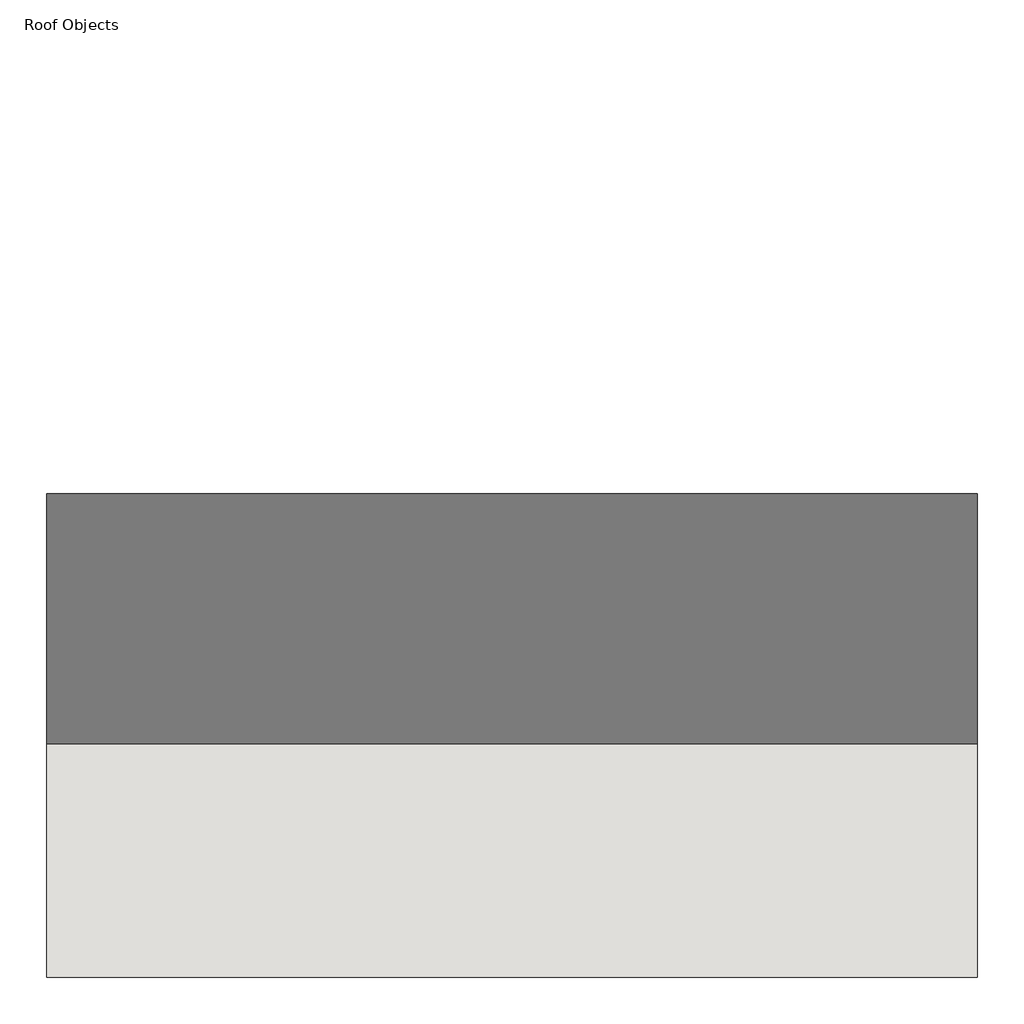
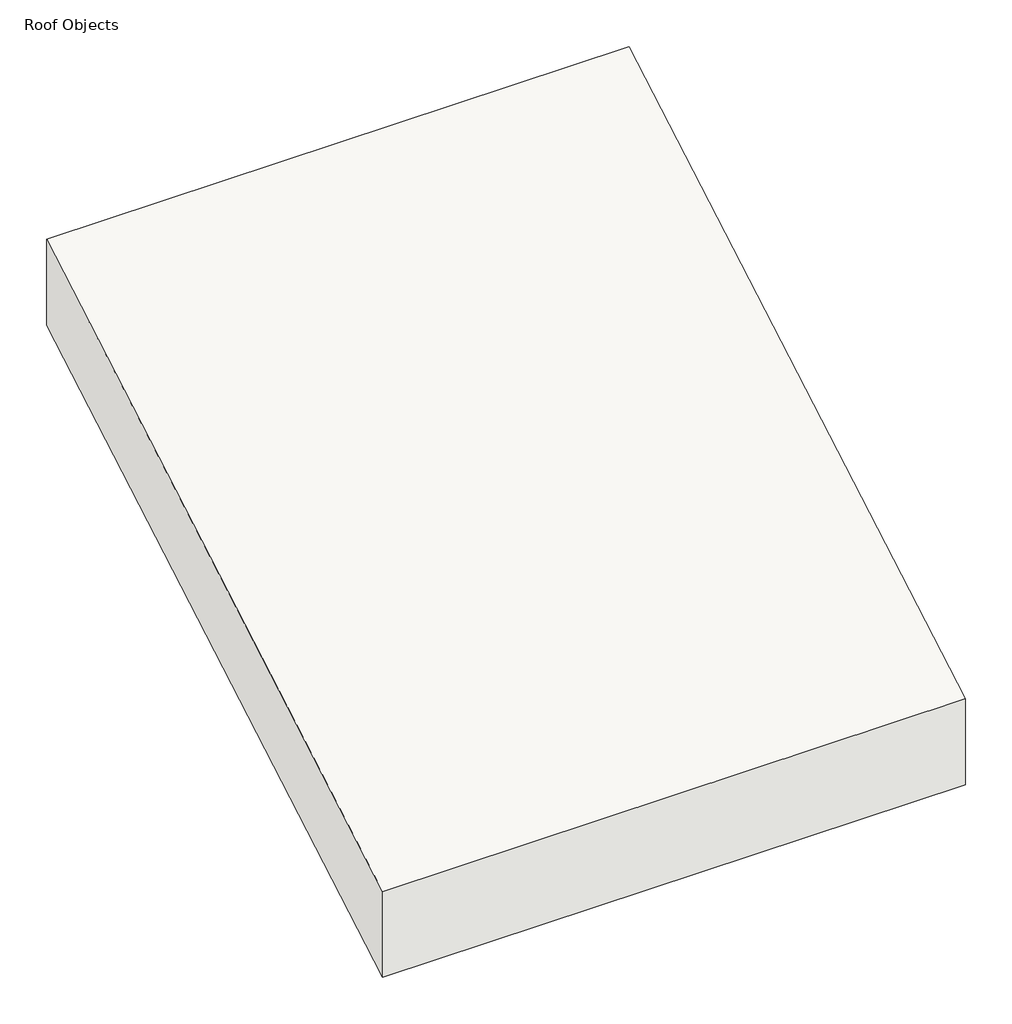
# One storey: 1 roof.
"""IFC4 building model written with IfcOpenShell, lengths in millimetres."""

import ifcopenshell
import ifcopenshell.guid

model = None  # the IFC model being written
_history = None  # IfcOwnerHistory: only IFC2X3 demands one
_inside = {}  # id of a spatial element -> (the spatial element, [elements in it])
_under = {}  # id of a project, library or spatial element -> (it, [spatial elements below it])
_declared = {}  # id of a project -> (the project, [libraries it declares])
_typed = {}  # id of a type object -> (the type object, [elements of that type])
_made_of = {}  # id of a material, layer set ... -> (it, [elements and type objects made of it])


def new_model(schema):
    """Start an empty IFC model of exactly this schema.

    Asked for "IFC4X3", IfcOpenShell would pick the latest addendum, in which some entities
    have other attributes; the version numbers below select the first issue.
    IFC2X3 requires an IfcOwnerHistory on every rooted entity: one is made here for all.
    """
    global model, _history
    if schema == "IFC4X3":
        model = ifcopenshell.file(schema_version=(4, 3, 0, 0))
    else:
        model = ifcopenshell.file(schema=schema)
    _inside.clear()
    _under.clear()
    _declared.clear()
    _typed.clear()
    _made_of.clear()
    _history = None
    if model.schema == "IFC2X3":
        org = make("IfcOrganization", Name="unknown")
        user = make(
            "IfcPersonAndOrganization",
            ThePerson=make("IfcPerson", FamilyName="unknown"),
            TheOrganization=org,
        )
        app = make(
            "IfcApplication",
            ApplicationDeveloper=org,
            Version="unknown",
            ApplicationFullName="unknown",
            ApplicationIdentifier="unknown",
        )
        _history = make(
            "IfcOwnerHistory",
            OwningUser=user,
            OwningApplication=app,
            ChangeAction="ADDED",
            CreationDate=0,
        )
    return model


def make(cls, **values):
    """One entity of the class cls with the attributes given. An attribute that is None is left unset."""
    return model.create_entity(
        cls, **{name: value for name, value in values.items() if value is not None}
    )


def rooted(cls, **values):
    """An entity with a GlobalId (a new one), such as an element, a storey or a relation."""
    return make(cls, GlobalId=ifcopenshell.guid.new(), OwnerHistory=_history, **values)


def si_unit(unit_type, name, prefix=None):
    """IfcSIUnit, for example si_unit("LENGTHUNIT", "METRE", prefix="MILLI")."""
    return make("IfcSIUnit", UnitType=unit_type, Prefix=prefix, Name=name)


def assignment(units):
    """IfcUnitAssignment: the units of a project."""
    return None if units is None else make("IfcUnitAssignment", Units=units)


def point(xyz):
    """IfcCartesianPoint."""
    return None if xyz is None else make("IfcCartesianPoint", Coordinates=xyz)


def direction(xyz):
    """IfcDirection."""
    return None if xyz is None else make("IfcDirection", DirectionRatios=xyz)


def frame(location, z_axis=None, x_axis=None):
    """IfcAxis2Placement3D, a coordinate frame: its origin and axes. An axis left out is left unset."""
    return make(
        "IfcAxis2Placement3D",
        Location=point(location),
        Axis=direction(z_axis),
        RefDirection=direction(x_axis),
    )


def origin():
    """The frame at (0, 0, 0) with its axes left unset."""
    return frame((0.0, 0.0, 0.0))


def place(relative_to, where):
    """IfcLocalPlacement: puts the frame where relative to a parent placement (None: the world)."""
    return make(
        "IfcLocalPlacement", PlacementRelTo=relative_to, RelativePlacement=where
    )


def context(
    kind, dimensions, precision=None, world=None, true_north=None, identifier=None
):
    """IfcGeometricRepresentationContext, for example the 3D "Model" context."""
    return make(
        "IfcGeometricRepresentationContext",
        ContextIdentifier=identifier,
        ContextType=kind,
        CoordinateSpaceDimension=dimensions,
        Precision=precision,
        WorldCoordinateSystem=world,
        TrueNorth=true_north,
    )


def project(units=None, contexts=None):
    """IfcProject with its units and contexts."""
    return rooted(
        "IfcProject",
        Name="project",
        RepresentationContexts=contexts,
        UnitsInContext=assignment(units),
    )


def spatial(cls, under=None, at=None, **own):
    """A site, building, storey or space (cls), placed at a placement, below another one or the project."""
    s = rooted(cls, ObjectPlacement=at, **own)
    if under is not None:
        _under.setdefault(under.id(), (under, []))[1].append(s)
    return s


def polyline(points):
    """IfcPolyline through the points."""
    return make("IfcPolyline", Points=[point(p) for p in points])


def outline(outer, holes=None, kind="AREA"):
    """IfcArbitraryClosedProfileDef: a profile drawn as a closed curve; with holes, ...WithVoids."""
    if holes is None:
        return make("IfcArbitraryClosedProfileDef", ProfileType=kind, OuterCurve=outer)
    return make(
        "IfcArbitraryProfileDefWithVoids",
        ProfileType=kind,
        OuterCurve=outer,
        InnerCurves=holes,
    )


def extrude(swept, where, along, depth):
    """IfcExtrudedAreaSolid: the profile swept, set in the frame where, extruded along a direction by depth."""
    return make(
        "IfcExtrudedAreaSolid",
        SweptArea=swept,
        Position=where,
        ExtrudedDirection=direction(along),
        Depth=depth,
    )


def shape(context_of_items, identifier, shape_type, items):
    """IfcShapeRepresentation: the items that make up one representation, for example the "Body"."""
    return make(
        "IfcShapeRepresentation",
        ContextOfItems=context_of_items,
        RepresentationIdentifier=identifier,
        RepresentationType=shape_type,
        Items=items,
    )


def made_of(thing, what):
    """Note that an element or type object is made of a material, layer set ...; save() writes the relation."""
    if what is not None:
        _made_of.setdefault(what.id(), (what, []))[1].append(thing)
    return thing


def element(
    cls,
    number,
    at=None,
    inside=None,
    cuts=None,
    type_object=None,
    material=None,
    context=None,
    identifier="Body",
    shape_type=None,
    held_by="IfcProductDefinitionShape",
    body=None,
    shapes=None,
    **own,
):
    """One element of the class cls, such as IfcWall. Its Tag is "e" and its number.

    at: its placement. inside: the storey or other place that contains it. cuts: it is an
    opening in that element (IfcRelVoidsElement). A single representation is given by context,
    identifier, shape_type and body (its items); several are given by shapes. held_by: the class
    of the entity that holds the representations. save() writes the other relations.
    """
    e = rooted(cls, Tag="e%d" % number, ObjectPlacement=at, **own)
    if body is not None:
        shapes = [shape(context, identifier, shape_type, body)]
    if shapes is not None:
        e.Representation = make(held_by, Representations=shapes)
    if inside is not None:
        _inside.setdefault(inside.id(), (inside, []))[1].append(e)
    if cuts is not None:
        rooted(
            "IfcRelVoidsElement", RelatingBuildingElement=cuts, RelatedOpeningElement=e
        )
    if type_object is not None:
        _typed.setdefault(type_object.id(), (type_object, []))[1].append(e)
    return made_of(e, material)


def aggregate(whole, parts):
    """IfcRelAggregates: a whole, such as a stair, and the parts it consists of."""
    return rooted("IfcRelAggregates", RelatingObject=whole, RelatedObjects=parts)


def save(model, path):
    """Write the relations noted so far, then the file.

    IfcRelAggregates (storeys below a building ...), IfcRelContainedInSpatialStructure (elements
    in a storey), IfcRelDefinesByType, IfcRelAssociatesMaterial and IfcRelDeclares: one each for
    every whole, place, type object, material and project.
    """
    for whole, parts in _under.values():
        aggregate(whole, parts)
    for where, things in _inside.values():
        rooted(
            "IfcRelContainedInSpatialStructure",
            RelatedElements=things,
            RelatingStructure=where,
        )
    for kind, things in _typed.values():
        rooted("IfcRelDefinesByType", RelatedObjects=things, RelatingType=kind)
    for what, things in _made_of.values():
        rooted("IfcRelAssociatesMaterial", RelatedObjects=things, RelatingMaterial=what)
    for by, libraries in _declared.values():
        rooted("IfcRelDeclares", RelatingContext=by, RelatedDefinitions=libraries)
    model.write(path)


model = new_model("IFC4")

# Units and contexts
model_context = context("Model", 3, world=origin())
ifc_project = project(units=[si_unit("LENGTHUNIT", "METRE", prefix="MILLI")], contexts=[model_context])

# Site, building, storey
site = spatial("IfcSite", under=ifc_project)
building = spatial("IfcBuilding", under=site)
storey = spatial("IfcBuildingStorey", under=building, Name="Roof Objects", Elevation=4000.0)

# Roof
placement = place(None, origin())
element("IfcRoof", 1, ObjectType="DS stålprofil - Klikfals_BasicRoofFixed", at=placement, inside=storey, context=model_context, shape_type="SweptSolid", body=[
    extrude(outline(polyline([(-1971.0000061, 4621.2289095), (2028.9999939, 6930.6299863), (2028.9999939, 6309.4010768), (-1971.0000061, 4000.0), (-1971.0000061, 4621.2289095)])), frame((2000.0, 0.0, 0.0), z_axis=(1.0, 0.0, 0.0), x_axis=(0.0, 1.0, 0.0)), (0.0, 0.0, 1.0), 4000.0),
])

save(model, "model.ifc")
